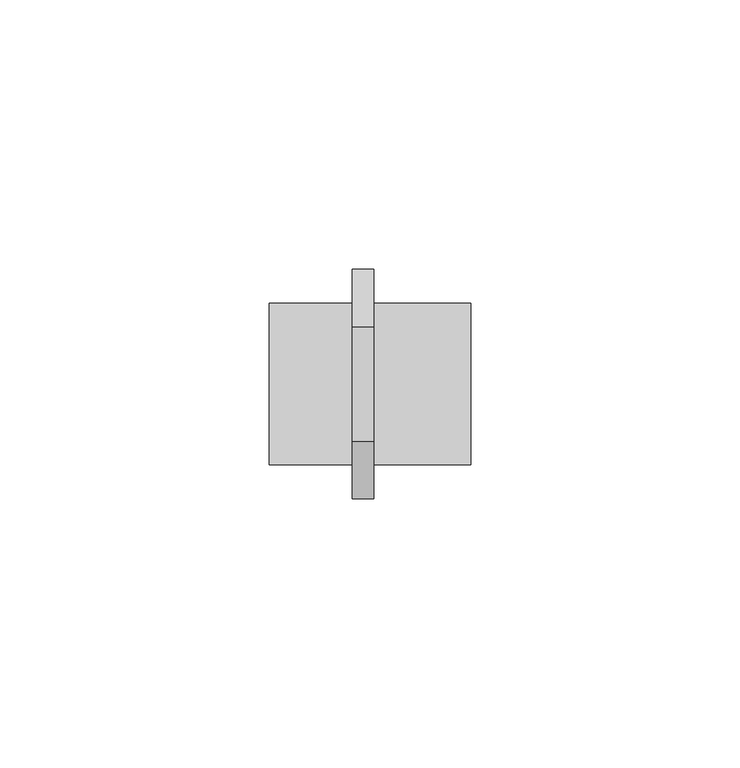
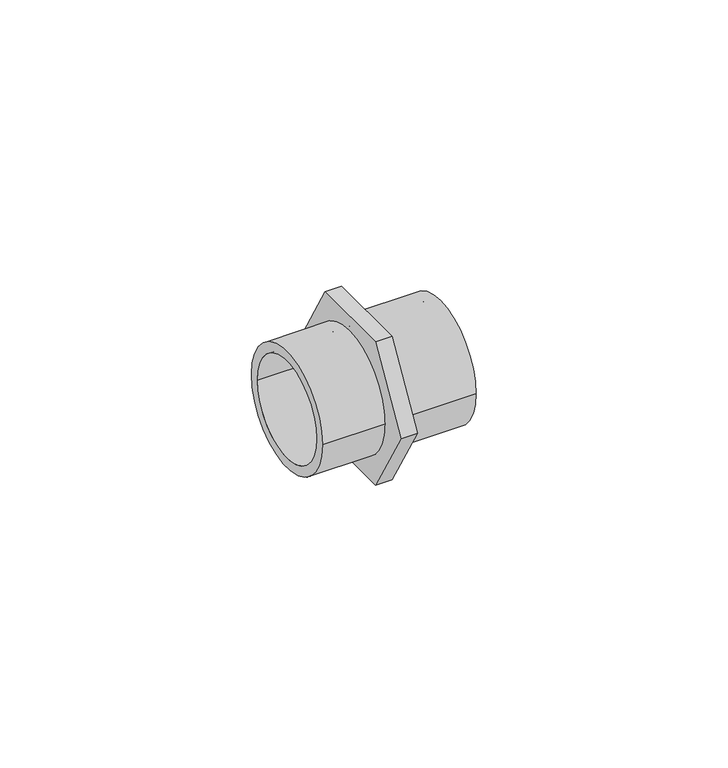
"""IFC4 building model written with IfcOpenShell, lengths in millimetres: pipe fitting geometry, VALTEC_VTi.582.I_Ниппель_Нержавеющая сталь : VTi.582.I."""

from ifc_helpers import new_model, si_unit, point, frame, origin, origin_2d, place, context, project, spatial, polyline, circle_curve, trimmed, segment, composite_curve, outline, extrude, source, transform, mapped, element, save


def pipe_fitting_59f1eef4(model_context):
    return source(origin(), model_context, "Body", "SweptSolid", [
        extrude(outline(polyline([(-21.36196, 0.0), (-10.68098, 18.5), (10.68098, 18.5), (21.36196, 0.0), (10.68098, -18.5), (-10.68098, -18.5), (-21.36196, 0.0)]), holes=[composite_curve([segment(trimmed(circle_curve(origin_2d(), 12.5), [point((12.5, 0.0))], [point((-12.5, 0.0))], True, "CARTESIAN"), True, "CONTINUOUS"), segment(trimmed(circle_curve(origin_2d(), 12.5), [point((-12.5, 0.0))], [point((12.5, 0.0))], True, "CARTESIAN"), True, "CONTINUOUS")], self_intersect=False)]), frame((-2.0, 0.0, 0.0), z_axis=(1.0, 0.0, 0.0), x_axis=(0.0, 1.0, 0.0)), (0.0, 0.0, 1.0), 4.0),
        extrude(outline(composite_curve([segment(trimmed(circle_curve(origin_2d(), 15.0), [point((-15.0, 0.0))], [point((15.0, 0.0))], False, "CARTESIAN"), True, "CONTINUOUS"), segment(trimmed(circle_curve(origin_2d(), 15.0), [point((15.0, 0.0))], [point((-15.0, 0.0))], False, "CARTESIAN"), True, "CONTINUOUS")], self_intersect=False), holes=[composite_curve([segment(trimmed(circle_curve(origin_2d(), 12.5), [point((-12.5, 0.0))], [point((12.5, 0.0))], True, "CARTESIAN"), True, "CONTINUOUS"), segment(trimmed(circle_curve(origin_2d(), 12.5), [point((12.5, 0.0))], [point((-12.5, 0.0))], True, "CARTESIAN"), True, "CONTINUOUS")], self_intersect=False)]), frame((2.0, 0.0, 0.0), z_axis=(1.0, 0.0, 0.0), x_axis=(0.0, 1.0, 0.0)), (0.0, 0.0, 1.0), 18.0),
        extrude(outline(composite_curve([segment(trimmed(circle_curve(origin_2d(), 15.0), [point((-15.0, 0.0))], [point((15.0, 0.0))], False, "CARTESIAN"), True, "CONTINUOUS"), segment(trimmed(circle_curve(origin_2d(), 15.0), [point((15.0, 0.0))], [point((-15.0, 0.0))], False, "CARTESIAN"), True, "CONTINUOUS")], self_intersect=False), holes=[composite_curve([segment(trimmed(circle_curve(origin_2d(), 12.5), [point((-12.5, 0.0))], [point((12.5, 0.0))], True, "CARTESIAN"), True, "CONTINUOUS"), segment(trimmed(circle_curve(origin_2d(), 12.5), [point((12.5, 0.0))], [point((-12.5, 0.0))], True, "CARTESIAN"), True, "CONTINUOUS")], self_intersect=False)]), frame((-17.5, 0.0, 0.0), z_axis=(1.0, 0.0, 0.0), x_axis=(0.0, 1.0, 0.0)), (0.0, 0.0, 1.0), 15.5),
    ])


if __name__ == "__main__":
    model = new_model("IFC4")
    model_context = context("Model", 3, world=origin())
    ifc_project = project(units=[si_unit("LENGTHUNIT", "METRE", prefix="MILLI")], contexts=[model_context])
    site = spatial("IfcSite", under=ifc_project)
    building = spatial("IfcBuilding", under=site)
    placement = place(None, origin())
    pipe_fitting_shape = pipe_fitting_59f1eef4(model_context)
    element("IfcPipeFitting", 1, ObjectType="VALTEC_VTi.582.I_Ниппель_Нержавеющая сталь : VTi.582.I", at=placement, inside=building, context=model_context, shape_type="MappedRepresentation", body=[
        mapped(pipe_fitting_shape, transform((0.0, 0.0, 0.0), x_axis=(1.0, 0.0, 0.0), y_axis=(0.0, 1.0, 0.0), z_axis=(0.0, 0.0, 1.0))),
    ])
    save(model, "model.ifc")
